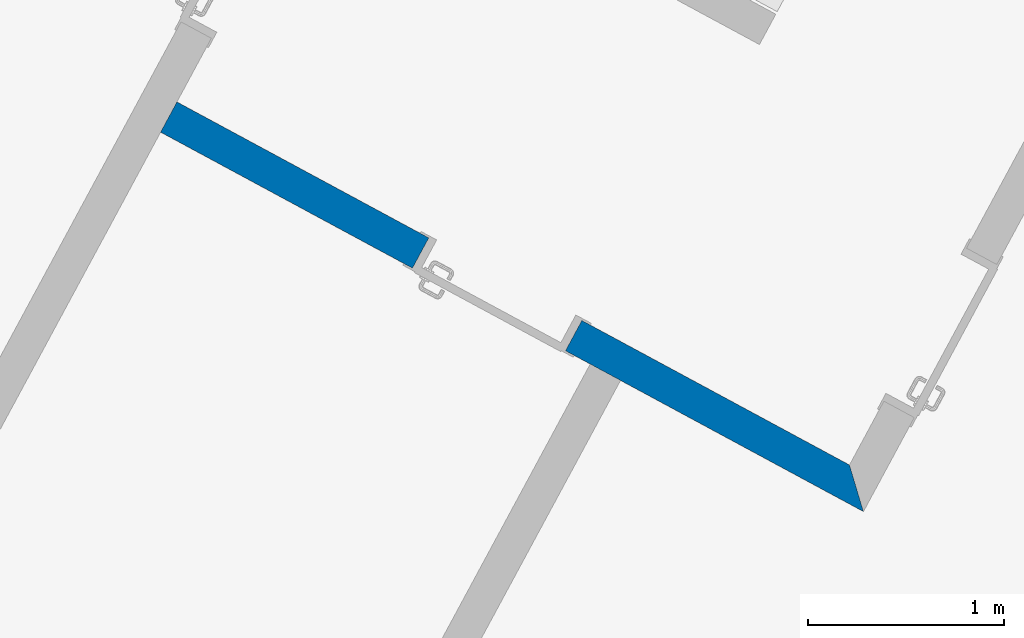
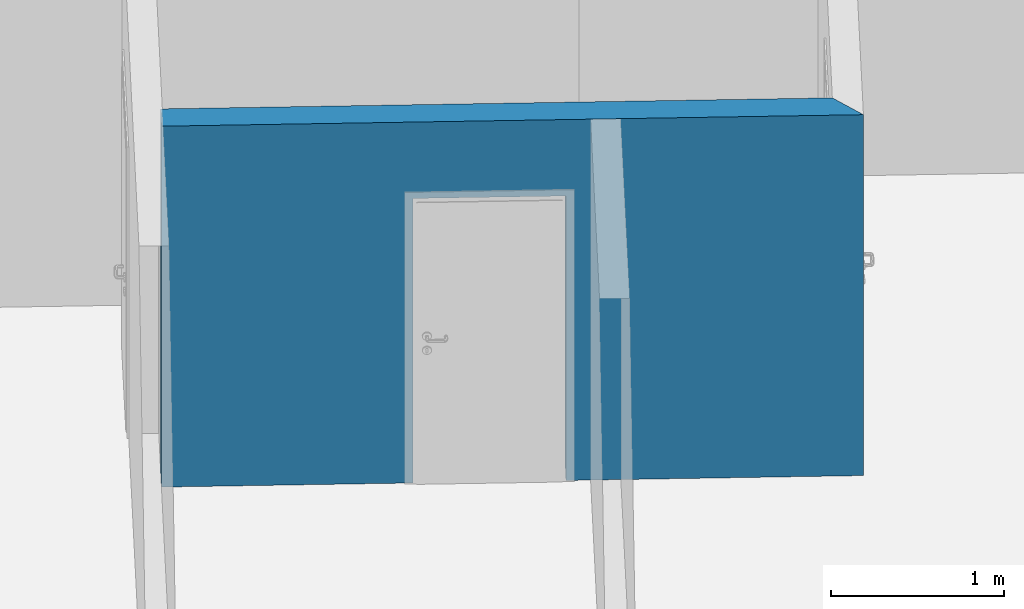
# One storey, part 2 of 8: 1 wall, 1 opening.
"""IFC2X3 building model written with IfcOpenShell, lengths in metres."""

from ifc_helpers import new_model, entity, si_unit, converted_unit, derived_unit, money_unit, direction, frame, origin_with_axes, origin_2d_with_axis, place, context, subcontext, project, spatial, polyline, rectangle, outline, extrude, material, layer, layer_set, layer_usage, type_object, element, save


model = new_model("IFC2X3")

# Units and contexts
model_context = context("Model", 3, precision=1e-05, world=origin_with_axes(), true_north=direction((0.0, 1.0)))
body_context = subcontext(model_context, "Body", "Model", "MODEL_VIEW")
ifc_project = project(units=[si_unit("LENGTHUNIT", "METRE"), si_unit("AREAUNIT", "SQUARE_METRE"), si_unit("VOLUMEUNIT", "CUBIC_METRE"), converted_unit("PLANEANGLEUNIT", "DEGREE", entity("IfcPlaneAngleMeasure", 0.0174532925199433), si_unit("PLANEANGLEUNIT", "RADIAN"), dimensions=[0, 0, 0, 0, 0, 0, 0]), money_unit("EUR"), converted_unit("TIMEUNIT", "Year", entity("IfcTimeMeasure", 31556926.0), si_unit("TIMEUNIT", "SECOND"), dimensions=[0, 0, 1, 0, 0, 0, 0]), si_unit("MASSUNIT", "GRAM", prefix="KILO"), si_unit("THERMODYNAMICTEMPERATUREUNIT", "DEGREE_CELSIUS"), si_unit("LUMINOUSINTENSITYUNIT", "LUMEN"), si_unit("ENERGYUNIT", "JOULE", prefix="MEGA"), derived_unit("THERMALCONDUCTANCEUNIT", [(si_unit("POWERUNIT", "WATT"), 1), (si_unit("LENGTHUNIT", "METRE"), -1), (si_unit("THERMODYNAMICTEMPERATUREUNIT", "KELVIN"), -1)]), derived_unit("SPECIFICHEATCAPACITYUNIT", [(si_unit("ENERGYUNIT", "JOULE"), 1), (si_unit("MASSUNIT", "GRAM", prefix="KILO"), -1), (si_unit("THERMODYNAMICTEMPERATUREUNIT", "KELVIN"), -1)]), derived_unit("MASSDENSITYUNIT", [(si_unit("MASSUNIT", "GRAM", prefix="KILO"), 1), (si_unit("VOLUMEUNIT", "CUBIC_METRE"), -1)])], contexts=[model_context])

# Site, building, storey
site_placement = place(None, frame((-3.949935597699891, 1.740105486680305, 0.0), z_axis=(0.0, 0.0, 1.0), x_axis=(0.8799804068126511, -0.475009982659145, 0.0)))
site = spatial("IfcSite", under=ifc_project, at=site_placement, Name="Gelände", CompositionType="ELEMENT")
building_placement = place(site_placement, origin_with_axes())
building = spatial("IfcBuilding", under=site, at=building_placement, Name="Gebäude", CompositionType="ELEMENT")
storey_placement = place(building_placement, frame((0.0, 0.0, -2.98), z_axis=(0.0, 0.0, 1.0), x_axis=(1.0, 0.0, 0.0)))
storey = spatial("IfcBuildingStorey", under=building, at=storey_placement, Name="Kellergeschoss", CompositionType="ELEMENT", Elevation=-2.98)

# Wall, opening
ifc_material = material(Name="_SIWH - MW Kalksandstein")
ifc_layer = layer(ifc_material, 0.175, ventilated="UNKNOWN")
ifc_layer_set = layer_set([ifc_layer], Name="_SIWH - WI | KS 17,5 | 17,5cm")
ifc_layer_usage = layer_usage(ifc_layer_set, "AXIS2", "NEGATIVE", 0.0)
wall_type = type_object("IfcWallType", Name="_SIWH - WI | KS 17,5 | 17,5cm 175", PredefinedType="NOTDEFINED")
wall_placement = place(storey_placement, frame((7.702455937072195, 16.04969649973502, 0.0), z_axis=(0.0, 0.0, 1.0), x_axis=(1.0, 0.0, 0.0)))
wall = element("IfcWallStandardCase", 1, at=wall_placement, inside=storey, type_object=wall_type, material=ifc_layer_usage, Name="I-Wand027", ObjectType="NOTDEFINED", context=body_context, shape_type="SweptSolid", body=[
    extrude(outline(polyline([(0.1750008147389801, -0.1750000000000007), (4.239953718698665, -0.1750000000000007), (4.064952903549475, 0.0), (0.1750000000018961, 0.0), (0.1750008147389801, -0.1750000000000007)])), origin_with_axes(), (0.0, 0.0, 1.0), 2.55),
])
opening_placement = place(wall_placement, frame((2.074302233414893, 0.0, 0.0), z_axis=(0.0, 0.0, 1.0), x_axis=(1.0, 0.0, 0.0)))
element("IfcOpeningElement", 2, at=opening_placement, cuts=wall, Name="I-Wand049", context=body_context, shape_type="SweptSolid", body=[
    extrude(rectangle(XDim=0.8850000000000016, YDim=2.01, at=origin_2d_with_axis()), frame((0.0, 0.1750000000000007, 1.005), z_axis=(0.0, 1.0, 0.0), x_axis=(1.0, 0.0, 0.0)), (0.0, 0.0, -1.0), 0.5249999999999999),
])

save(model, "model.ifc")
